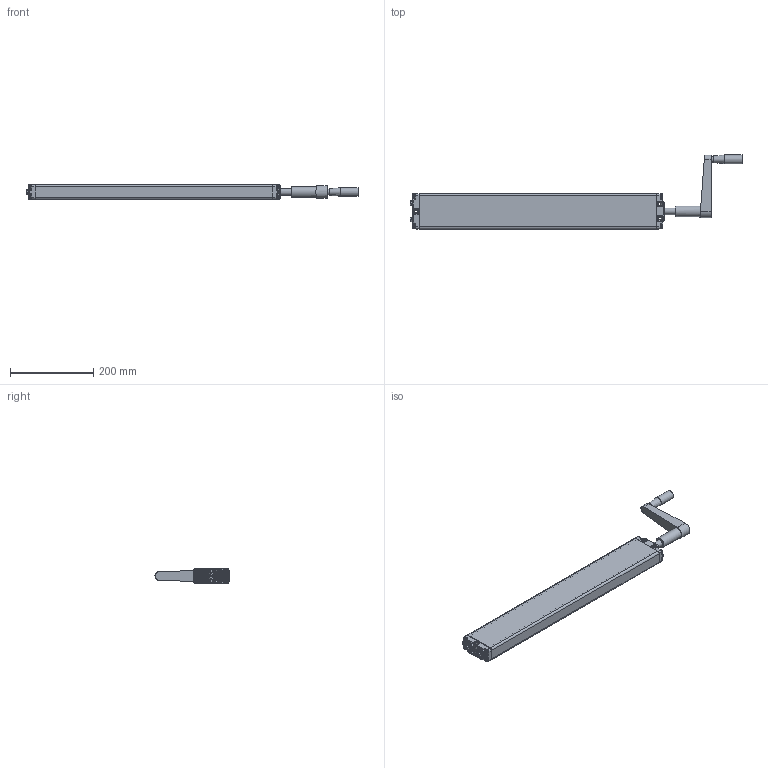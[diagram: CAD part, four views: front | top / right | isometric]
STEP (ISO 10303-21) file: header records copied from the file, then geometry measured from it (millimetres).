
FILE_DESCRIPTION(/* description */ ('Unknown'),/* implementation_level */ '2;1');
FILE_NAME(/* name */ '310.20004 Pumpe PA 2840 W mit Handkurbel',/* time_stamp */ '2016-08-10T14:52:36+02:00',/* author */ ('Unknown'),/* organization */ ('Unknown'),/* preprocessor_version */ 'ST-DEVELOPER v16.7',/* originating_system */ 'DEX',/* authorisation */ $);
FILE_SCHEMA (('AUTOMOTIVE_DESIGN {1 0 10303 214 3 1 1}'));
Products named in the file (20): 100.20004; 115.00034; 125.00045; 115.00008; 142.00021; 125.00021; 113.00005; 128.00001; 125.00052; 126.00013; 125.00053; 127.00014; Handgriff; 142.00013; 125.00144; 122.00040; 126.00002; 119.00024; 126.00001; 142.00057
Assembly tree (27 placements, depth 3):
  100.20004
    115.00034  x2
      125.00045
      115.00008
      142.00021
      125.00021
    113.00005
      128.00001
      125.00052
      126.00013
      125.00053
      127.00014
      Handgriff
    142.00013  x8
    125.00144
    122.00040
    126.00002
    119.00024
    126.00001
    142.00057
Bounding box: 797.72 x 178 x 35 mm (x, y, z)
Volume: 700468.1 mm3; surface area: 375457.1 mm2
Topology: 26 solids, 26 shells, 1987 faces, 4571 edges, 2601 vertices
Faces by surface type: plane 606, bspline 480, cylinder 457, cone 294, torus 104, sphere 46
Full cylindrical faces by diameter (mm): 3.5 x2, 4 x2, 4.1 x2, 4.2 x3, 4.917 x2, 5 x8, 6.917 x4, 8 x6, 9.8 x8, 10 x4, 10.4 x1, 12.8 x1, 13 x1, 14 x1, 14.4 x2, 16 x2, 17 x1, 17.3 x2, 17.9 x4, 18 x1, 19 x1, 20.6 x1, 21 x1, 22 x1, 25.5 x1
Entity records: 68415 total; most frequent: CARTESIAN_POINT 39240, ORIENTED_EDGE 6038, DIRECTION 5009, EDGE_CURVE 3019, AXIS2_PLACEMENT_3D 2050, VERTEX_POINT 1852, FACE_BOUND 1587, EDGE_LOOP 1584
